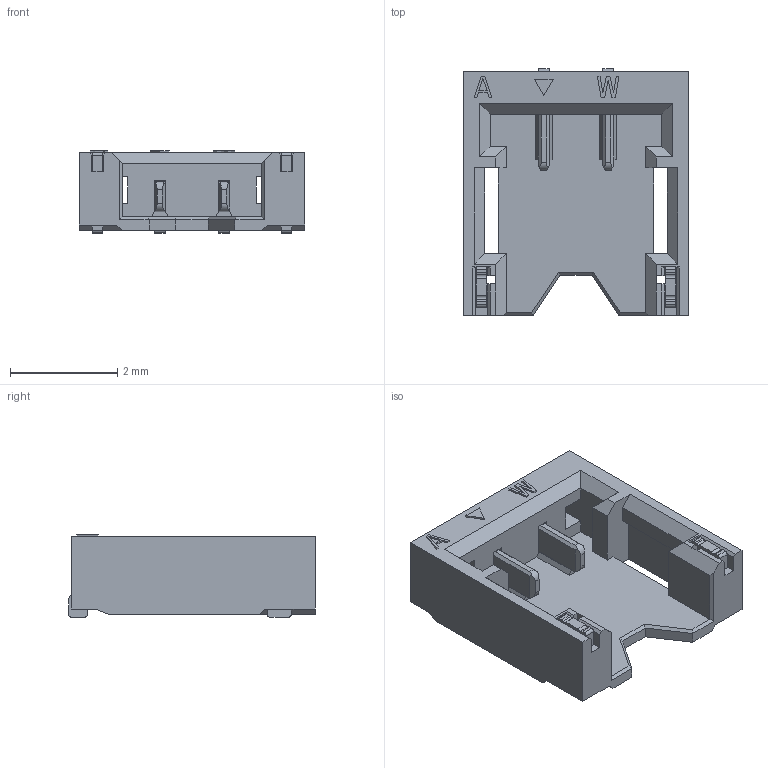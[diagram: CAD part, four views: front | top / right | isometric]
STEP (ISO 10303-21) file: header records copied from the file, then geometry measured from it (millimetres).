
FILE_DESCRIPTION((''),'2;1');
FILE_NAME('1020-2P','2026-03-17T',('PMT1 SFT'),(''),'PRO/ENGINEER BY PARAMETRIC TECHNOLOGY CORPORATION, 2011490','PRO/ENGINEER BY PARAMETRIC TECHNOLOGY CORPORATION, 2011490','');
FILE_SCHEMA(('CONFIG_CONTROL_DESIGN'));
Length unit declared in the file: millimetre
Products named in the file (1): 1020-2P
Bounding box: 4.2 x 4.6 x 1.53 mm (x, y, z)
Volume: 12.4 mm3; surface area: 90.9 mm2
Topology: 1 solids, 1 shells, 287 faces, 877 edges, 566 vertices
Faces by surface type: plane 231, cylinder 56
Entity records: 9773 total; most frequent: CARTESIAN_POINT 1806, ORIENTED_EDGE 1754, DIRECTION 1531, EDGE_CURVE 877, VECTOR 749, LINE 749, VERTEX_POINT 566, AXIS2_PLACEMENT_3D 391
